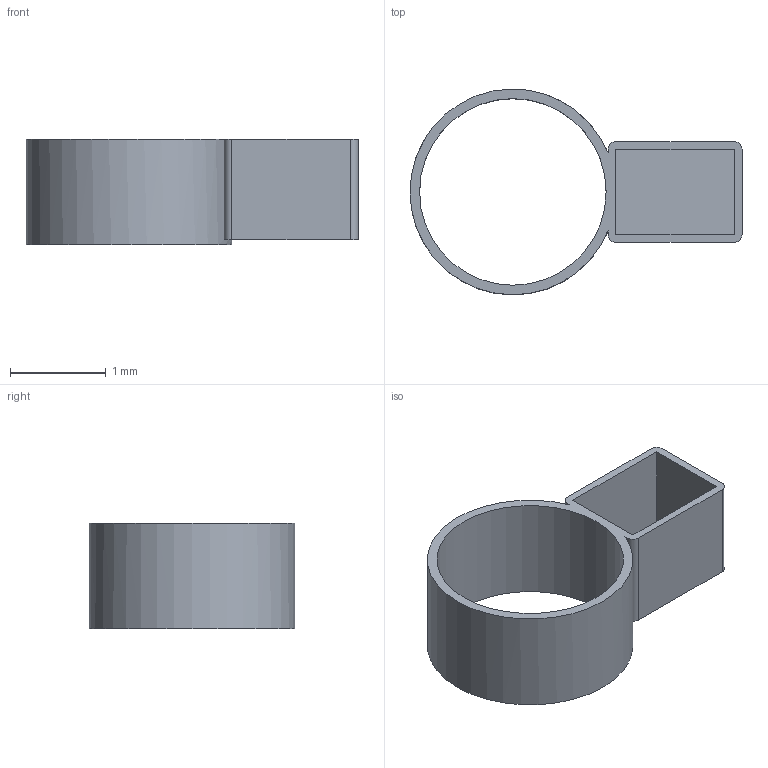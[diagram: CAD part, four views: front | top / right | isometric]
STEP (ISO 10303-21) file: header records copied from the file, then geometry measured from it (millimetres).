
FILE_DESCRIPTION(('Open CASCADE Model'),'2;1');
FILE_NAME('Open CASCADE Shape Model','2026-09-15T23:57:53',('Author'),( 'Open CASCADE'),'Open CASCADE STEP processor 7.9','Open CASCADE 7.9' ,'Unknown');
FILE_SCHEMA(('AUTOMOTIVE_DESIGN { 1 0 10303 214 1 1 1 1 }'));
Length unit declared in the file: millimetre
Products named in the file (1): Open CASCADE STEP translator 7.9 4
Bounding box: 3.47 x 2.15 x 1.1 mm (x, y, z)
Volume: 1.1 mm3; surface area: 25.7 mm2
Topology: 1 solids, 1 shells, 24 faces, 60 edges, 40 vertices
Faces by surface type: plane 18, cylinder 6
Full cylindrical faces by diameter (mm): 1.95 x1, 2.15 x1
Entity records: 1515 total; most frequent: CARTESIAN_POINT 296, DIRECTION 223, LINE 137, VECTOR 137, ORIENTED_EDGE 120, PCURVE 120, DEFINITIONAL_REPRESENTATION 120, EDGE_CURVE 60
